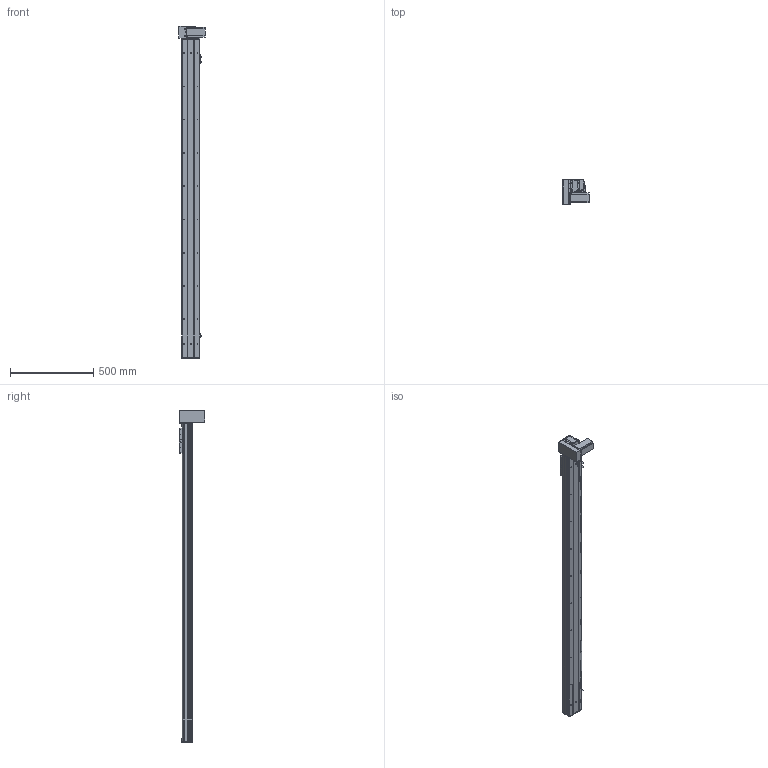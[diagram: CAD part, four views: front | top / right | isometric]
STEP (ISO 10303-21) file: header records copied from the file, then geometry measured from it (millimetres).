
FILE_DESCRIPTION (( 'STEP AP203' ), '1' );
FILE_NAME ('Y10CB-D90-S1650-BM-P400W.STEP', '2020-02-17T01:48:50', ( '微软用户' ), ( '微软中国' ), 'SwSTEP 2.0', 'SolidWorks 2017', '' );
FILE_SCHEMA (( 'CONFIG_CONTROL_DESIGN' ));
Length unit declared in the file: millimetre
Products named in the file (18): 10CB-詩湍-; Y10B-耜蚾蟀諉啣----; Y10CB- 掛极耜裔啣-毀---; 0CB-雄赽釱---; Y10CB-D90-S1650-BM-P400W; Y10C---詩湍揤啣; 0Cb-俋欶---; 10CB9-掛极; Y10B-々湍喘謫眊楊擘啣--; 10CB-耜裔; 0B-萇儂楊擘啣; Y135C-陔俋离換覜結え-; san松下电机400不带刹车----; Y100-135俋离換覜ん--; 0B-源倛裔啣; Y10B--々湍喘謫眊--666; 0B-埴倛裔啣; 00B-俋欶BM--
Assembly tree (21 placements, depth 2):
  Y10CB-D90-S1650-BM-P400W
    0CB-雄赽釱---
    0Cb-俋欶---
    Y10B-々湍喘謫眊楊擘啣--
    0B-萇儂楊擘啣
    san松下电机400不带刹车----
    0B-源倛裔啣
    0B-埴倛裔啣
    10CB-詩湍-
    Y10CB- 掛极耜裔啣-毀---  x2
    Y10C---詩湍揤啣  x2
    10CB9-掛极
    10CB-耜裔
    Y135C-陔俋离換覜結え-
    Y100-135俋离換覜ん--  x3
    Y10B--々湍喘謫眊--666
    00B-俋欶BM--
    Y10B-耜蚾蟀諉啣----
Bounding box: 157 x 156 x 1996 mm (x, y, z)
Volume: 4270203.6 mm3; surface area: 1983752.3 mm2
Topology: 21 solids, 21 shells, 1026 faces, 2763 edges, 1802 vertices
Faces by surface type: cylinder 519, plane 483, cone 24
Entity records: 32412 total; most frequent: CARTESIAN_POINT 5913, DIRECTION 5202, ORIENTED_EDGE 4996, EDGE_CURVE 2498, AXIS2_PLACEMENT_3D 1861, VERTEX_POINT 1628, VECTOR 1480, LINE 1480
